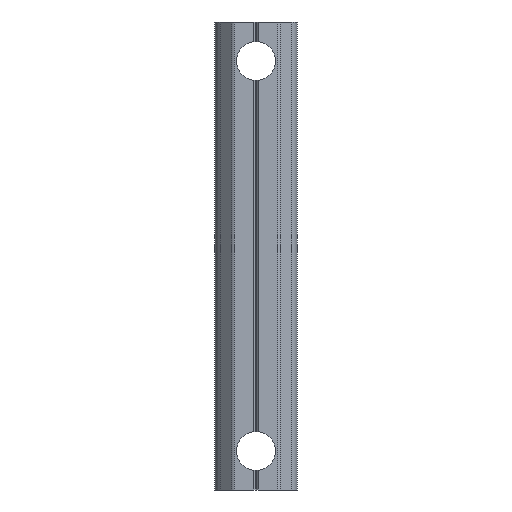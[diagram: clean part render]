
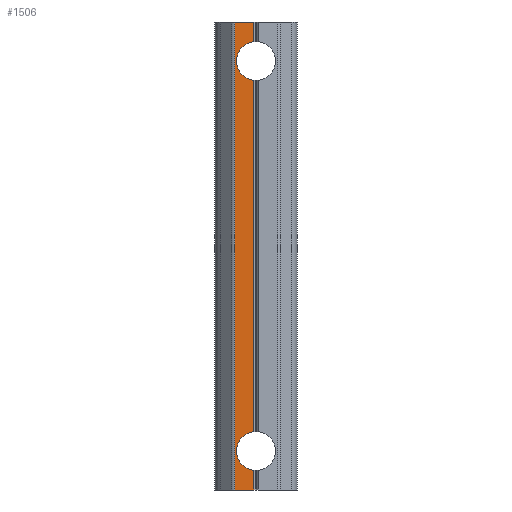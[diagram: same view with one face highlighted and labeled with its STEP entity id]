
A CAD part, front view. The second image highlights one B-rep face of the part: STEP entity #1506.
In plain terms, the highlighted planar face has unit normal (0, -1, 0).
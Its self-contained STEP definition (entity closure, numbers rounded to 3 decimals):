
#50 = CIRCLE ( 'NONE', #1678, 2.5 ) ;
#127 = VERTEX_POINT ( 'NONE', #862 ) ;
#131 = EDGE_CURVE ( 'NONE', #373, #1609, #1072, .T. ) ;
#231 = EDGE_CURVE ( 'NONE', #1535, #672, #799, .T. ) ;
#276 = EDGE_CURVE ( 'NONE', #1609, #343, #1478, .T. ) ;
#291 = CARTESIAN_POINT ( 'NONE',  ( -0.291, 0., 22.517 ) ) ;
#339 = DIRECTION ( 'NONE',  ( -1., 0., 0. ) ) ;
#343 = VERTEX_POINT ( 'NONE', #384 ) ;
#354 = CARTESIAN_POINT ( 'NONE',  ( -0.291, 0., -30. ) ) ;
#367 = DIRECTION ( 'NONE',  ( 0., 0., -1. ) ) ;
#369 = DIRECTION ( 'NONE',  ( 0., -1., 0. ) ) ;
#373 = VERTEX_POINT ( 'NONE', #412 ) ;
#377 = AXIS2_PLACEMENT_3D ( 'NONE', #1454, #369, #1564 ) ;
#380 = CARTESIAN_POINT ( 'NONE',  ( 2.936, 0., -30. ) ) ;
#382 = LINE ( 'NONE', #380, #1892 ) ;
#384 = CARTESIAN_POINT ( 'NONE',  ( -2.728, 0., -30. ) ) ;
#389 = CARTESIAN_POINT ( 'NONE',  ( -2.728, 0., 30. ) ) ;
#412 = CARTESIAN_POINT ( 'NONE',  ( -0.291, 0., 30. ) ) ;
#423 = ORIENTED_EDGE ( 'NONE', *, *, #1517, .T. ) ;
#438 = LINE ( 'NONE', #354, #776 ) ;
#449 = EDGE_CURVE ( 'NONE', #889, #672, #438, .T. ) ;
#488 = CARTESIAN_POINT ( 'NONE',  ( -0.291, 0., -30. ) ) ;
#538 = LINE ( 'NONE', #1097, #1584 ) ;
#578 = DIRECTION ( 'NONE',  ( 0., 0., 1. ) ) ;
#595 = CARTESIAN_POINT ( 'NONE',  ( 2.936, 0., 30. ) ) ;
#657 = DIRECTION ( 'NONE',  ( 1., 0., 0. ) ) ;
#665 = DIRECTION ( 'NONE',  ( 0., 0., -1. ) ) ;
#672 = VERTEX_POINT ( 'NONE', #1630 ) ;
#678 = ORIENTED_EDGE ( 'NONE', *, *, #449, .T. ) ;
#684 = EDGE_CURVE ( 'NONE', #127, #1079, #50, .T. ) ;
#699 = ORIENTED_EDGE ( 'NONE', *, *, #276, .T. ) ;
#738 = DIRECTION ( 'NONE',  ( 0., -1., 0. ) ) ;
#776 = VECTOR ( 'NONE', #578, 1000. ) ;
#799 = CIRCLE ( 'NONE', #377, 2.5 ) ;
#849 = ORIENTED_EDGE ( 'NONE', *, *, #1131, .T. ) ;
#858 = FACE_OUTER_BOUND ( 'NONE', #1218, .T. ) ;
#862 = CARTESIAN_POINT ( 'NONE',  ( -0.291, 0., 27.483 ) ) ;
#875 = ORIENTED_EDGE ( 'NONE', *, *, #231, .F. ) ;
#889 = VERTEX_POINT ( 'NONE', #488 ) ;
#929 = DIRECTION ( 'NONE',  ( 0., -1., 0. ) ) ;
#939 = DIRECTION ( 'NONE',  ( 0., 0., 1. ) ) ;
#948 = PLANE ( 'NONE',  #1764 ) ;
#1072 = LINE ( 'NONE', #595, #1126 ) ;
#1079 = VERTEX_POINT ( 'NONE', #291 ) ;
#1082 = CARTESIAN_POINT ( 'NONE',  ( 2.936, 0., 30. ) ) ;
#1097 = CARTESIAN_POINT ( 'NONE',  ( -0.291, 0., -30. ) ) ;
#1126 = VECTOR ( 'NONE', #1146, 1000. ) ;
#1131 = EDGE_CURVE ( 'NONE', #1535, #1079, #1803, .T. ) ;
#1146 = DIRECTION ( 'NONE',  ( -1., 0., 0. ) ) ;
#1191 = DIRECTION ( 'NONE',  ( 0., 0., 1. ) ) ;
#1218 = EDGE_LOOP ( 'NONE', ( #1810, #699, #1510, #678, #875, #849, #1615, #423 ) ) ;
#1244 = CARTESIAN_POINT ( 'NONE',  ( -0.291, 0., -22.517 ) ) ;
#1365 = VECTOR ( 'NONE', #1191, 1000. ) ;
#1454 = CARTESIAN_POINT ( 'NONE',  ( 0., 0., -25. ) ) ;
#1478 = LINE ( 'NONE', #389, #1825 ) ;
#1506 = ADVANCED_FACE ( 'NONE', ( #858 ), #948, .T. ) ;
#1510 = ORIENTED_EDGE ( 'NONE', *, *, #1750, .F. ) ;
#1511 = CARTESIAN_POINT ( 'NONE',  ( 0., 0., 25. ) ) ;
#1517 = EDGE_CURVE ( 'NONE', #127, #373, #538, .T. ) ;
#1535 = VERTEX_POINT ( 'NONE', #1244 ) ;
#1564 = DIRECTION ( 'NONE',  ( 0., 0., -1. ) ) ;
#1584 = VECTOR ( 'NONE', #939, 1000. ) ;
#1609 = VERTEX_POINT ( 'NONE', #1816 ) ;
#1615 = ORIENTED_EDGE ( 'NONE', *, *, #684, .F. ) ;
#1630 = CARTESIAN_POINT ( 'NONE',  ( -0.291, 0., -27.483 ) ) ;
#1678 = AXIS2_PLACEMENT_3D ( 'NONE', #1511, #738, #665 ) ;
#1750 = EDGE_CURVE ( 'NONE', #889, #343, #382, .T. ) ;
#1764 = AXIS2_PLACEMENT_3D ( 'NONE', #1082, #929, #657 ) ;
#1776 = CARTESIAN_POINT ( 'NONE',  ( -0.291, 0., -30. ) ) ;
#1803 = LINE ( 'NONE', #1776, #1365 ) ;
#1810 = ORIENTED_EDGE ( 'NONE', *, *, #131, .T. ) ;
#1816 = CARTESIAN_POINT ( 'NONE',  ( -2.728, 0., 30. ) ) ;
#1825 = VECTOR ( 'NONE', #367, 1000. ) ;
#1892 = VECTOR ( 'NONE', #339, 1000. ) ;
